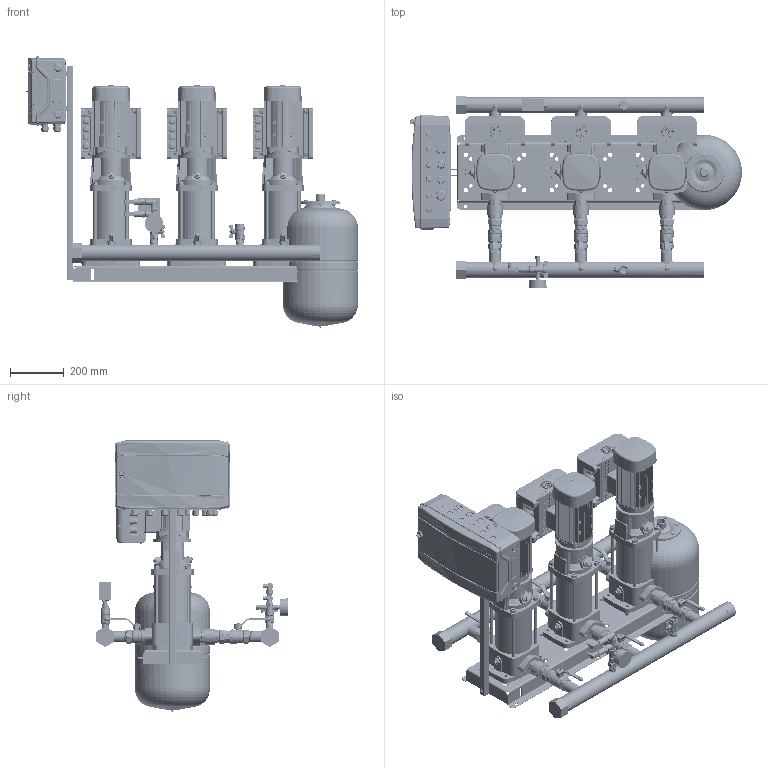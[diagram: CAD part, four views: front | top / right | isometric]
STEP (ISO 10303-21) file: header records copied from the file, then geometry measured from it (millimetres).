
FILE_DESCRIPTION(('CATIA V5 STEP Exchange','CAx-IF Rec.Pracs.--- Model Styling and Organization---1.4--- 2014-01-23','CAx-IF Rec.Pracs.---3D Tessellated Data Validation Properties---0.5---2014-09-14'),'2;1');
FILE_NAME('C:\Users\78432\YandexDisk\Drawings and 3D\3D Hydro Booster\Hydro-ME 3D\Hydro Models\Hydro ME 3 CRV3-xx\Hydro ME 3 CRVE3-12.stp','2023-09-21T09:19:55+00:00',('none'),('none'),'CATIA Version 5-6 Release 2019 SP6','CATIA V5 STEP AP242 v1','none');
FILE_SCHEMA(('AP242_MANAGED_MODEL_BASED_3D_ENGINEERING_MIM_LF {1 0 10303 442 1 1 4}'));
Products named in the file (46): Hydro ME 3 CRVE3-12; 92051012; CRV3-12 Set; CRV 3-12_A_Oval_1.1kW; Base; Flange.1; Flange.2; Sleeve; Pumphead; Staybolt.1; Staybolt.2; Staybolt.3; Staybolt.4; Plug; AirVent; Motor; 92807543_9022-04; Hydraulica NY DN32 1,25 PN16; DN32_FM_LV_47.303.32; 92814060_9013-04; SAJ PDH30 0,75-2,2kW; 97941451; 405801; 91040265; 91040272; 97941488; 00ID7526; Holder and CP 18mod; 92878909; Control ME (18mod); 2 sensors + manometer cpl.; manometr 16 bar; RPD-I-G1_2; 9021-01; 2070 1/2-1/2; _2020 1/2-1/2; 98594078; Tank 24L cpl.; DN20_FF_BF_47.300.20; WAV-24(D140 1'')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
Assembly tree (55 placements, depth 4):
  Hydro ME 3 CRVE3-12
    92051012
    CRV3-12 Set  x3
      CRV 3-12_A_Oval_1.1kW
        Base
        Flange.1
        Flange.2
        Sleeve
        Pumphead
        Staybolt.1
        Staybolt.2
        Staybolt.3
        Staybolt.4
        Plug
        AirVent
        Motor
      92807543_9022-04
      Hydraulica NY DN32 1,25 PN16
      DN32_FM_LV_47.303.32
      92814060_9013-04
      SAJ PDH30 0,75-2,2kW
    97941451  x2
      405801
      91040265
      91040272
      97941488
    00ID7526  x2
    Holder and CP 18mod
      92878909
      Control ME (18mod)
    2 sensors + manometer cpl.
      manometr 16 bar
      RPD-I-G1_2  x2
      9021-01
      2070 1/2-1/2
      _2020 1/2-1/2
      98594078
    Tank 24L cpl.
      DN20_FF_BF_47.300.20
      9021-03
    Relay cpl.
      Relay RD-2R
      DN20_FF_BF_47.300.20
      2530 3/4-1/2
      _2530 1/2-1/4
    91078139
  WAV-24(D140 1'')
Bounding box: 1236.82 x 712 x 1009.9 mm (x, y, z)
Volume: 63693139.5 mm3; surface area: 7197710.2 mm2
Topology: 218 solids, 254 shells, 25897 faces, 75781 edges, 50787 vertices
Faces by surface type: plane 11271, cylinder 6377, bspline 5889, cone 1763, torus 432, sphere 165
Entity records: 562585 total; most frequent: CARTESIAN_POINT 278471, ORIENTED_EDGE 72759, EDGE_CURVE 36861, DIRECTION 34071, VERTEX_POINT 24569, VECTOR 15863, LINE 15863, EDGE_LOOP 14348
